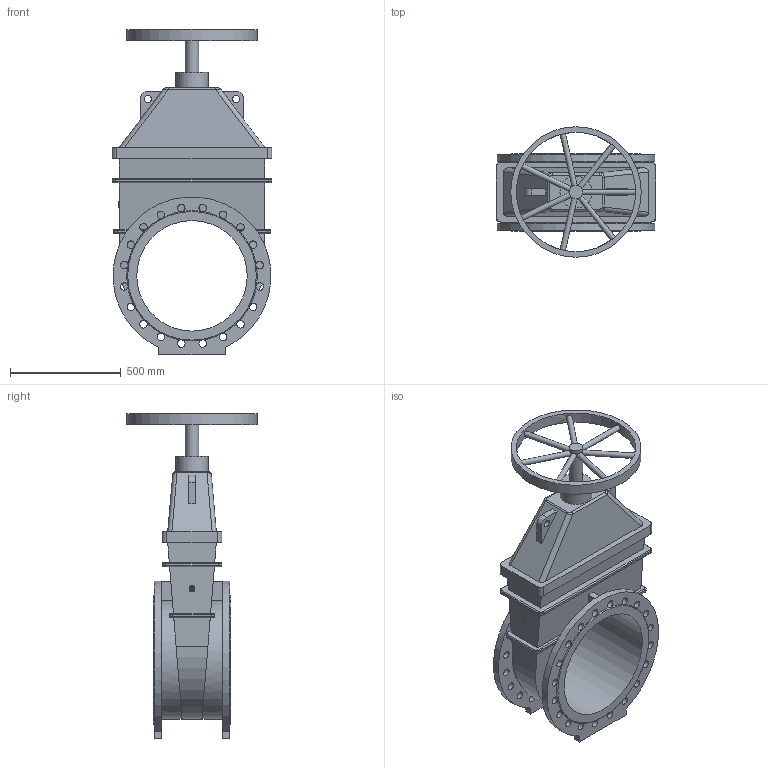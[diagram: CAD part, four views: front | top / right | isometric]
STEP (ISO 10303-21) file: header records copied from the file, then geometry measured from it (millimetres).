
FILE_DESCRIPTION(('STEP AP203'), '1');
FILE_NAME('Çàäâèæêà 47GV DN500 PN16_L350 ñ ìàõîâèêîì', '', ('UNSPECIFIED'), ('UNSPECIFIED'), 'ASCON STEP Converter 1.6', 'ASCON Math Kernel', '');
FILE_SCHEMA(('CONFIG_CONTROL_DESIGN'));
Length unit declared in the file: millimetre
Bounding box: 720 x 590 x 1473.5 mm (x, y, z)
Volume: 108627190.1 mm3; surface area: 3834868.9 mm2
Topology: 1 solids, 1 shells, 215 faces, 669 edges, 432 vertices
Faces by surface type: cylinder 108, plane 85, bspline 16, torus 4, cone 2
Full cylindrical faces by diameter (mm): 25 x7, 32 x2, 34 x40, 60 x1, 145 x1, 500 x1, 540 x1, 590 x1
Entity records: 14683 total; most frequent: CARTESIAN_POINT 7097, ORIENTED_EDGE 1224, DIRECTION 1166, EDGE_CURVE 612, AXIS2_PLACEMENT_3D 464, VERTEX_POINT 432, EDGE_LOOP 348, FACE_BOUND 279
